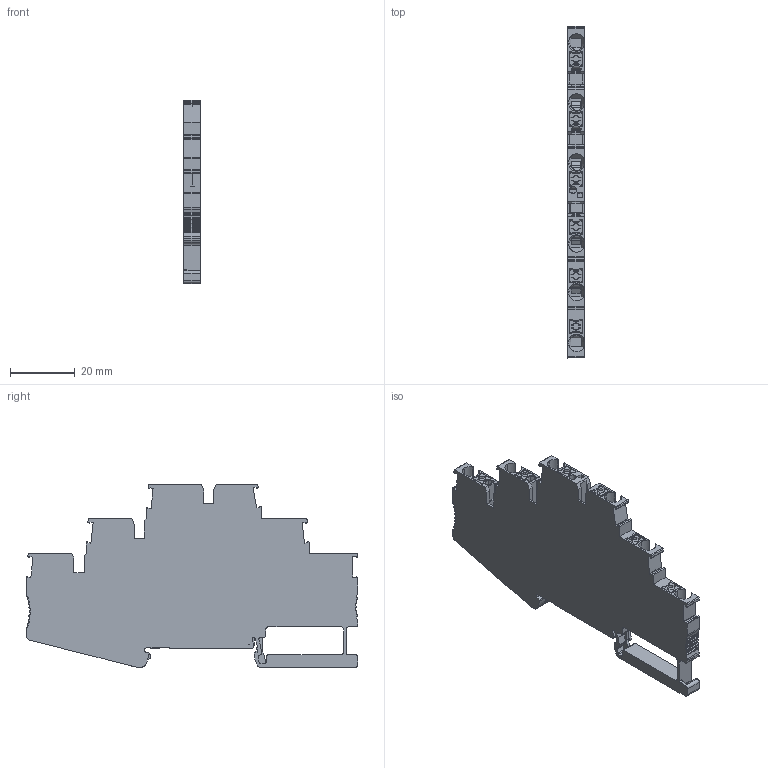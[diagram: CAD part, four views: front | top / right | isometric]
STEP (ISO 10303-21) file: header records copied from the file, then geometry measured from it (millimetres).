
FILE_DESCRIPTION((''),'2;1');
FILE_NAME('ADMI33883A8BA47V_12','2024-04-01T10:53:18',('Administrator'),(''),'CREO PARAMETRIC BY PTC INC, 2018050','CREO PARAMETRIC BY PTC INC, 2018050','');
FILE_SCHEMA(('CONFIG_CONTROL_DESIGN'));
Length unit declared in the file: millimetre
Products named in the file (1): ADMI33883A8BA47V_12
Bounding box: 5.2 x 102.2 x 56.45 mm (x, y, z)
Volume: 18397 mm3; surface area: 14191.6 mm2
Topology: 1 solids, 6 shells, 1456 faces, 4156 edges, 2708 vertices
Faces by surface type: plane 853, cylinder 489, bspline 42, torus 36, cone 36
Entity records: 51078 total; most frequent: CARTESIAN_POINT 13307, ORIENTED_EDGE 8288, DIRECTION 7384, EDGE_CURVE 4144, VECTOR 2870, LINE 2870, VERTEX_POINT 2708, AXIS2_PLACEMENT_3D 2257
